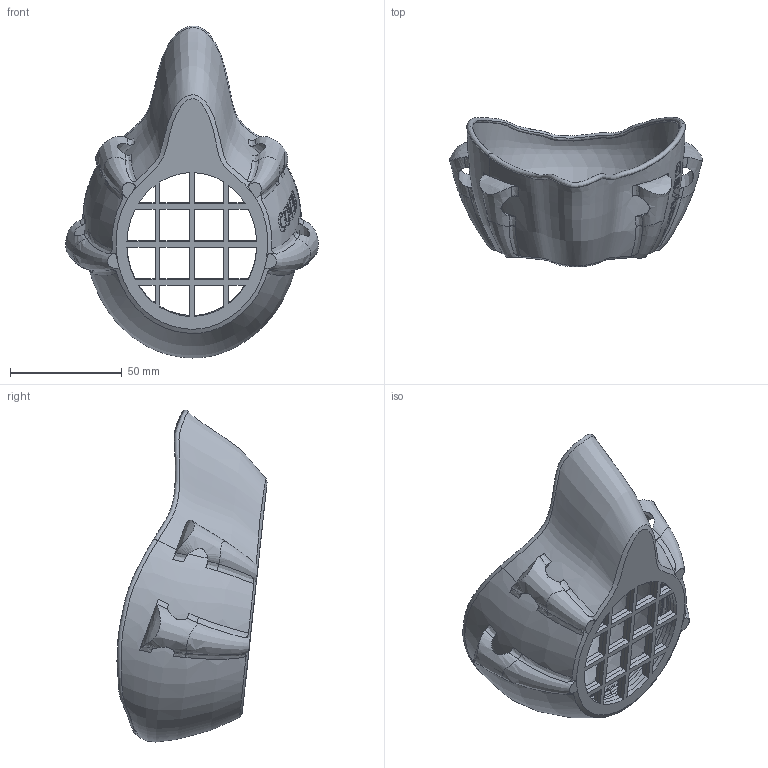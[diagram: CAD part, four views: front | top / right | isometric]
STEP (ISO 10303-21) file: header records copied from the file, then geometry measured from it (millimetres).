
FILE_DESCRIPTION(/* description */ (''),/* implementation_level */ '2;1');
FILE_NAME(/* name */ 'XL-NAR~2',/* time_stamp */ '2020-04-10T21:48:13+03:00',/* author */ (''),/* organization */ (''),/* preprocessor_version */ 'ST-DEVELOPER v16.5',/* originating_system */ '',/* authorisation */ '');
FILE_SCHEMA (('AUTOMOTIVE_DESIGN'));
Length unit declared in the file: millimetre
Products named in the file (1): Document
Bounding box: 113.06 x 67.11 x 148.51 mm (x, y, z)
Volume: 58934.2 mm3; surface area: 50297.9 mm2
Topology: 1 solids, 1 shells, 312 faces, 797 edges, 489 vertices
Faces by surface type: bspline 209, plane 103
Entity records: 184217 total; most frequent: CARTESIAN_POINT 179229, ORIENTED_EDGE 1594, EDGE_CURVE 797, B_SPLINE_CURVE_WITH_KNOTS 625, VERTEX_POINT 489, EDGE_LOOP 354, ADVANCED_FACE 312, FACE_OUTER_BOUND 312
